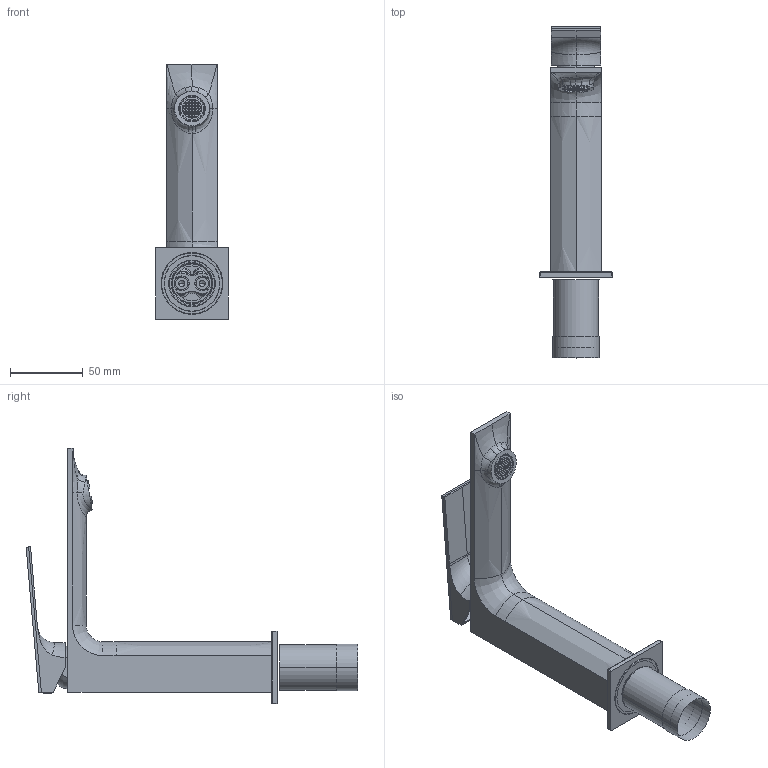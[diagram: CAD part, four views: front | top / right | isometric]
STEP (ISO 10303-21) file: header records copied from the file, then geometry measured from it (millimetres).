
FILE_DESCRIPTION((''),'2;1');
FILE_NAME('87050_ASM','2024-12-19T09:53:19',('volponeff'),(''),'CREO PARAMETRIC BY PTC INC, 2022014','CREO PARAMETRIC BY PTC INC, 2022014','');
FILE_SCHEMA(('CONFIG_CONTROL_DESIGN'));
Products named in the file (24): D473C51853; A302D4005_H; A302D4005_D; A302D4005_F; A302D4005_G; A302D4005_E; A302D4005_C; A302D4005_I; A302D40062_ASM; D461000077; D500001403_GEN; A450000104; D456000221_AF1; D492520075_AF1; A488A80213_AF2; A488A80213_AF3; D482D40042_AF1; A503B60040_AF1; D518A80006_AF1; A496B60269_AF1; D511000162; A536A80109; A503B60031; 87050_ASM
Assembly tree (23 placements, depth 3):
  87050_ASM
    D473C51853
    A302D40062_ASM
      A302D4005_H
      A302D4005_D
      A302D4005_F
      A302D4005_G
      A302D4005_E
      A302D4005_C
      A302D4005_I
    D461000077
    D500001403_GEN
    A450000104
    D456000221_AF1
    D492520075_AF1
    A488A80213_AF2
    A488A80213_AF3
    D482D40042_AF1
    A503B60040_AF1
    D518A80006_AF1
    A496B60269_AF1
    D511000162
    A536A80109
    A503B60031
Bounding box: 50 x 227.69 x 175.5 mm (x, y, z)
Volume: 139640.9 mm3; surface area: 106942 mm2
Topology: 19 solids, 35 shells, 1915 faces, 4861 edges, 2984 vertices
Faces by surface type: cylinder 598, plane 593, torus 228, bspline 209, sphere 100, extrusion 94, cone 89, revolution 4
Entity records: 78365 total; most frequent: CARTESIAN_POINT 33094, ORIENTED_EDGE 9513, DIRECTION 9115, EDGE_CURVE 4784, AXIS2_PLACEMENT_3D 3520, VERTEX_POINT 2984, EDGE_LOOP 2127, VECTOR 2071
